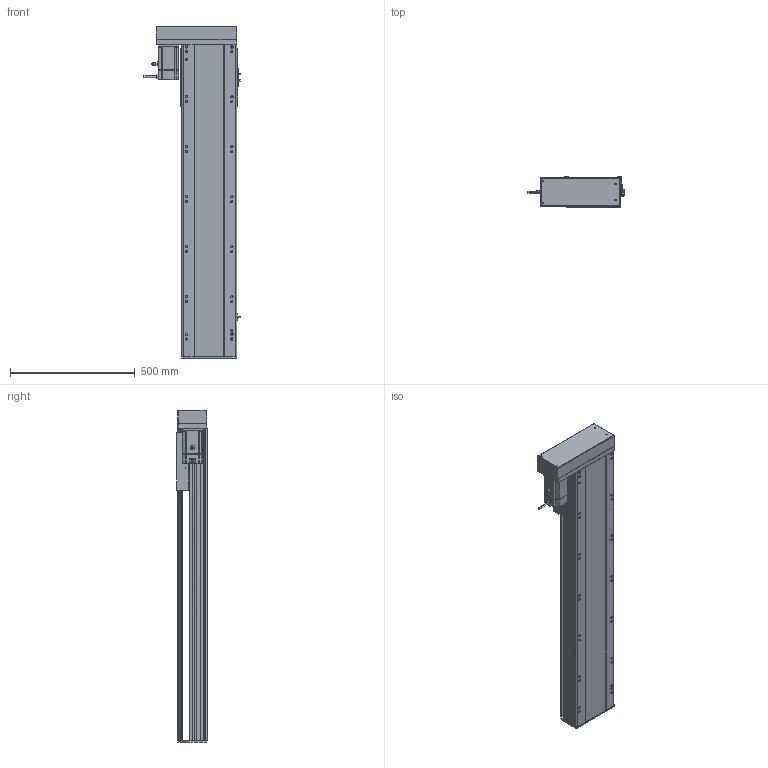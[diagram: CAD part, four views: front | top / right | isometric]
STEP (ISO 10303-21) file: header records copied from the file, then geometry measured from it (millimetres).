
FILE_DESCRIPTION (( 'STEP AP214' ), '1' );
FILE_NAME ('RTH22-XX-950-R-M75-C4.STEP', '2025-10-25T03:12:30', ( 'Microsoft' ), ( 'Microsoft' ), 'SwSTEP 2.0', 'SolidWorks 2018', '' );
FILE_SCHEMA (( 'AUTOMOTIVE_DESIGN' ));
Length unit declared in the file: millimetre
Products named in the file (10): N_RTH22-L-007奻裔^RTH22-XX-XX-R-M75-C4; N_750W萇儂^RTH22-XX-XX-R-M75-C4; RTH22-XX-950-R-M75-C4; N_RTH22-L-004-SFS25賑釱^RTH22-XX-XX-R-M75-C4; N_RTH22-GY-001耜裔^RTH22-XX-XX-R-M75-C4; N_OMRON EE-SX672 传感器^RTH22-XX-XX-R-M75-C4; N_RTH22-GY-013外置感应片^RTH22-XX-XX-R-M75-C4; N_RTH22-R-008-P75萇儂啣^RTH22-XX-XX-R-M75-C4; N_RTH22-L-011菁釱^RTH22-XX-XX-R-M75-C4; N_RTH22-L-018裔赽^RTH22-XX-XX-R-M75-C4
Assembly tree (11 placements, depth 2):
  RTH22-XX-950-R-M75-C4
    N_RTH22-L-011菁釱^RTH22-XX-XX-R-M75-C4
    N_RTH22-GY-001耜裔^RTH22-XX-XX-R-M75-C4
    N_750W萇儂^RTH22-XX-XX-R-M75-C4
    N_RTH22-R-008-P75萇儂啣^RTH22-XX-XX-R-M75-C4
    N_RTH22-L-007奻裔^RTH22-XX-XX-R-M75-C4
    N_OMRON EE-SX672 传感器^RTH22-XX-XX-R-M75-C4  x3
    N_RTH22-GY-013外置感应片^RTH22-XX-XX-R-M75-C4
    N_RTH22-L-004-SFS25賑釱^RTH22-XX-XX-R-M75-C4
    N_RTH22-L-018裔赽^RTH22-XX-XX-R-M75-C4
Bounding box: 384.7 x 122 x 1329.7 mm (x, y, z)
Volume: 18341679.6 mm3; surface area: 2057052.1 mm2
Topology: 11 solids, 11 shells, 1592 faces, 4347 edges, 2803 vertices
Faces by surface type: plane 793, cylinder 462, bspline 279, cone 58
Entity records: 39967 total; most frequent: CARTESIAN_POINT 12202, ORIENTED_EDGE 5670, DIRECTION 5341, EDGE_CURVE 2835, VERTEX_POINT 1839, AXIS2_PLACEMENT_3D 1794, VECTOR 1753, LINE 1753
